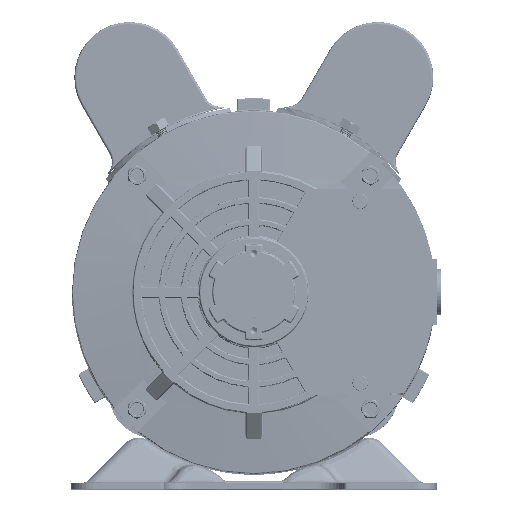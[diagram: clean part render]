
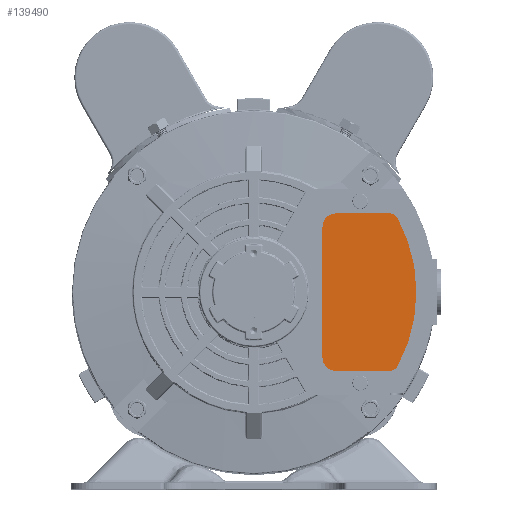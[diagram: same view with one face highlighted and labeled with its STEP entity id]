
A CAD part, top view. The second image highlights one B-rep face of the part: STEP entity #139490.
In plain terms, the highlighted planar face has unit normal (0, 0, 1).
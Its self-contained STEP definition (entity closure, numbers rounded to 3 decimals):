
#3522 = DIRECTION ( 'NONE',  ( 0., -1., 0. ) ) ;
#3789 = ORIENTED_EDGE ( 'NONE', *, *, #109943, .T. ) ;
#5584 = AXIS2_PLACEMENT_3D ( 'NONE', #63460, #118055, #172735 ) ;
#6432 = LINE ( 'NONE', #61051, #15112 ) ;
#11320 = ORIENTED_EDGE ( 'NONE', *, *, #47686, .T. ) ;
#11472 = CARTESIAN_POINT ( 'NONE',  ( 23.215, -37.597, 305.3 ) ) ;
#13990 = DIRECTION ( 'NONE',  ( 0., -1., 0. ) ) ;
#15112 = VECTOR ( 'NONE', #115645, 1000. ) ;
#17532 = CARTESIAN_POINT ( 'NONE',  ( -10.677, 31.312, 305.3 ) ) ;
#21915 = CARTESIAN_POINT ( 'NONE',  ( -4.677, -33.688, 305.3 ) ) ;
#24838 = VECTOR ( 'NONE', #72125, 1000. ) ;
#25933 = VERTEX_POINT ( 'NONE', #130462 ) ;
#26596 = EDGE_LOOP ( 'NONE', ( #11320, #117535, #93068, #154475, #83583, #52129, #3789, #52420 ) ) ;
#30884 = CARTESIAN_POINT ( 'NONE',  ( -10.677, -33.688, 305.3 ) ) ;
#32145 = EDGE_CURVE ( 'NONE', #60962, #53771, #82758, .T. ) ;
#34802 = AXIS2_PLACEMENT_3D ( 'NONE', #81960, #136643, #13990 ) ;
#35644 = AXIS2_PLACEMENT_3D ( 'NONE', #21915, #76521, #131160 ) ;
#37012 = LINE ( 'NONE', #91586, #84947 ) ;
#39322 = DIRECTION ( 'NONE',  ( 0., 0., 1. ) ) ;
#47686 = EDGE_CURVE ( 'NONE', #136435, #60962, #6432, .T. ) ;
#52129 = ORIENTED_EDGE ( 'NONE', *, *, #160474, .T. ) ;
#52420 = ORIENTED_EDGE ( 'NONE', *, *, #115904, .T. ) ;
#52655 = DIRECTION ( 'NONE',  ( 0., -1., 0. ) ) ;
#52766 = FACE_OUTER_BOUND ( 'NONE', #26596, .T. ) ;
#53771 = VERTEX_POINT ( 'NONE', #11472 ) ;
#60652 = CIRCLE ( 'NONE', #160777, 4. ) ;
#60962 = VERTEX_POINT ( 'NONE', #94334 ) ;
#61051 = CARTESIAN_POINT ( 'NONE',  ( -10.677, -39.688, 305.3 ) ) ;
#61785 = EDGE_CURVE ( 'NONE', #25933, #120178, #37012, .T. ) ;
#63460 = CARTESIAN_POINT ( 'NONE',  ( 19.7, -35.688, 305.3 ) ) ;
#64270 = EDGE_CURVE ( 'NONE', #111623, #25933, #60652, .T. ) ;
#68937 = AXIS2_PLACEMENT_3D ( 'NONE', #71588, #126216, #3522 ) ;
#71588 = CARTESIAN_POINT ( 'NONE',  ( -38.298, -4.188, 305.3 ) ) ;
#72125 = DIRECTION ( 'NONE',  ( 0., -1., 0. ) ) ;
#76521 = DIRECTION ( 'NONE',  ( 0., 0., 1. ) ) ;
#81960 = CARTESIAN_POINT ( 'NONE',  ( -4.677, 25.312, 305.3 ) ) ;
#82758 = CIRCLE ( 'NONE', #5584, 4. ) ;
#83583 = ORIENTED_EDGE ( 'NONE', *, *, #61785, .T. ) ;
#84947 = VECTOR ( 'NONE', #146277, 1000. ) ;
#91586 = CARTESIAN_POINT ( 'NONE',  ( 22.033, 31.312, 305.3 ) ) ;
#93068 = ORIENTED_EDGE ( 'NONE', *, *, #171584, .T. ) ;
#93902 = DIRECTION ( 'NONE',  ( 1., 0., 0. ) ) ;
#94334 = CARTESIAN_POINT ( 'NONE',  ( 19.7, -39.688, 305.3 ) ) ;
#94817 = CARTESIAN_POINT ( 'NONE',  ( 23.215, 29.221, 305.3 ) ) ;
#107370 = PLANE ( 'NONE',  #172210 ) ;
#107575 = CARTESIAN_POINT ( 'NONE',  ( -4.677, 31.312, 305.3 ) ) ;
#109943 = EDGE_CURVE ( 'NONE', #155420, #177126, #140195, .T. ) ;
#111623 = VERTEX_POINT ( 'NONE', #94817 ) ;
#112003 = CIRCLE ( 'NONE', #34802, 6. ) ;
#112840 = CIRCLE ( 'NONE', #35644, 6. ) ;
#115645 = DIRECTION ( 'NONE',  ( 1., 0., 0. ) ) ;
#115904 = EDGE_CURVE ( 'NONE', #177126, #136435, #112840, .T. ) ;
#117535 = ORIENTED_EDGE ( 'NONE', *, *, #32145, .T. ) ;
#118055 = DIRECTION ( 'NONE',  ( 0., 0., 1. ) ) ;
#120178 = VERTEX_POINT ( 'NONE', #107575 ) ;
#120710 = CARTESIAN_POINT ( 'NONE',  ( 19.7, 27.312, 305.3 ) ) ;
#126216 = DIRECTION ( 'NONE',  ( 0., 0., 1. ) ) ;
#130462 = CARTESIAN_POINT ( 'NONE',  ( 19.7, 31.312, 305.3 ) ) ;
#131160 = DIRECTION ( 'NONE',  ( 0., -1., 0. ) ) ;
#136435 = VERTEX_POINT ( 'NONE', #164479 ) ;
#136643 = DIRECTION ( 'NONE',  ( 0., 0., 1. ) ) ;
#139490 = ADVANCED_FACE ( 'NONE', ( #52766 ), #107370, .T. ) ;
#140195 = LINE ( 'NONE', #17532, #24838 ) ;
#146129 = CIRCLE ( 'NONE', #68937, 70. ) ;
#146277 = DIRECTION ( 'NONE',  ( -1., 0., 0. ) ) ;
#154475 = ORIENTED_EDGE ( 'NONE', *, *, #64270, .T. ) ;
#155420 = VERTEX_POINT ( 'NONE', #159358 ) ;
#159358 = CARTESIAN_POINT ( 'NONE',  ( -10.677, 25.312, 305.3 ) ) ;
#160474 = EDGE_CURVE ( 'NONE', #120178, #155420, #112003, .T. ) ;
#160777 = AXIS2_PLACEMENT_3D ( 'NONE', #120710, #175376, #52655 ) ;
#162053 = CARTESIAN_POINT ( 'NONE',  ( -38.298, -4.188, 305.3 ) ) ;
#164479 = CARTESIAN_POINT ( 'NONE',  ( -4.677, -39.688, 305.3 ) ) ;
#171584 = EDGE_CURVE ( 'NONE', #53771, #111623, #146129, .T. ) ;
#172210 = AXIS2_PLACEMENT_3D ( 'NONE', #162053, #39322, #93902 ) ;
#172735 = DIRECTION ( 'NONE',  ( 0., -1., 0. ) ) ;
#175376 = DIRECTION ( 'NONE',  ( 0., 0., 1. ) ) ;
#177126 = VERTEX_POINT ( 'NONE', #30884 ) ;
